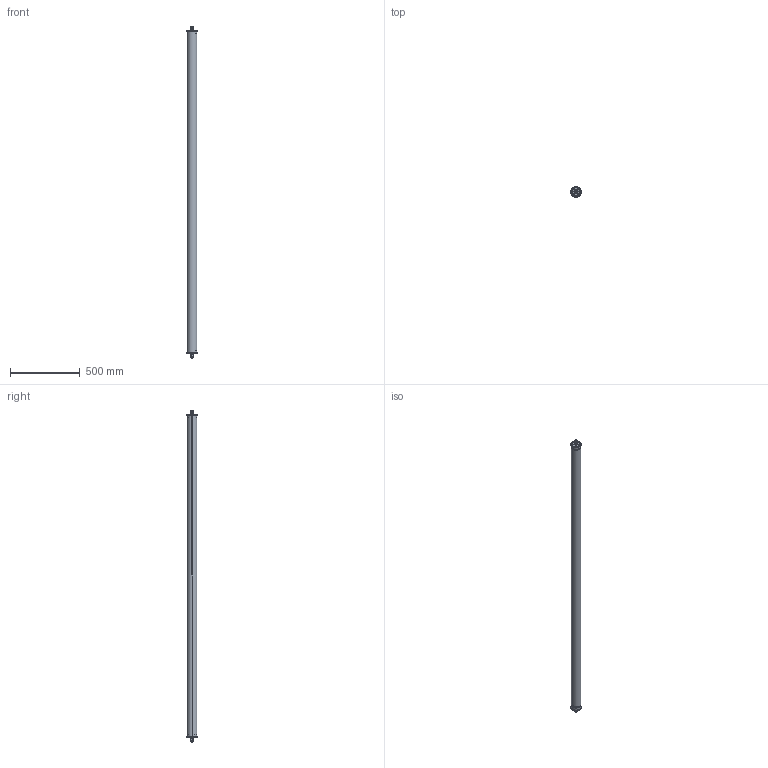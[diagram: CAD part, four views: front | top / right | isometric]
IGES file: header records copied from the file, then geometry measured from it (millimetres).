
Start section: SolidWorks IGES file using analytic representation for surfaces
Global section: file name: C:\Users\JoãoSantos\Desktop\02_3D.2D\01_2020\02_Linear\02_Tubo\02_Tubo_70\Repicagem\TUBO_70_REP_2312.IGS; native system: SolidWorks 2020; preprocessor: SolidWorks 2020; author: JoãoSantos; date: 201020.181140; units: millimetre
Bounding box: 73 x 73 x 2376 mm (x, y, z)
Surface area: 1086600.7 mm2 (no closed solid volume)
Topology: 0 solids, 0 shells, 1775 faces, 16640 edges, 16420 vertices
Faces by surface type: revolution 1028, bspline 747
